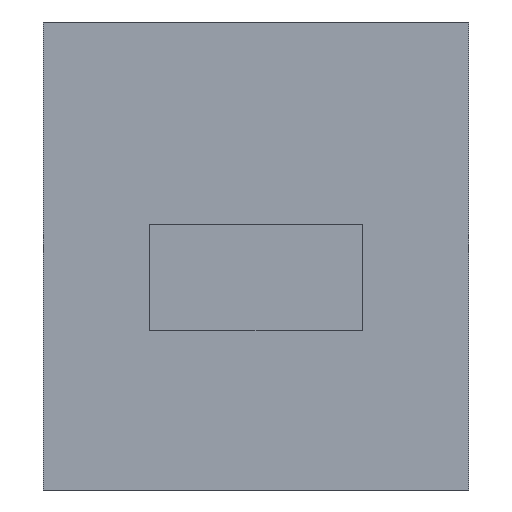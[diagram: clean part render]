
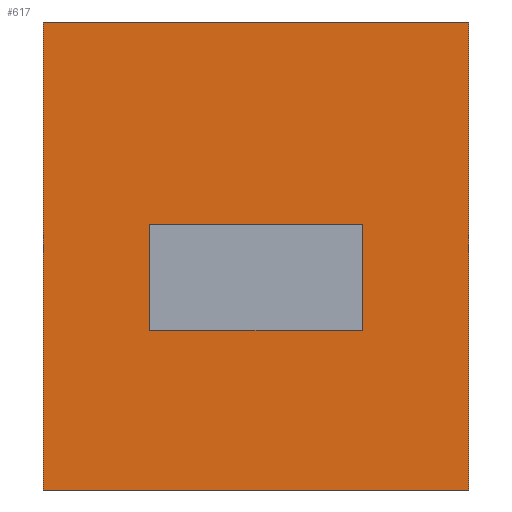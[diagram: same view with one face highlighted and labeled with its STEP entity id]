
A CAD part, front view. The second image highlights one B-rep face of the part: STEP entity #617.
In plain terms, the highlighted planar face has unit normal (0, -1, 0).
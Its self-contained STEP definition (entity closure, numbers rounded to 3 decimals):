
#92=ORIENTED_EDGE('',*,*,#246,.F.);
#93=ORIENTED_EDGE('',*,*,#247,.T.);
#94=ORIENTED_EDGE('',*,*,#241,.F.);
#95=ORIENTED_EDGE('',*,*,#248,.T.);
#96=ORIENTED_EDGE('',*,*,#225,.F.);
#97=ORIENTED_EDGE('',*,*,#232,.F.);
#98=ORIENTED_EDGE('',*,*,#222,.F.);
#99=ORIENTED_EDGE('',*,*,#237,.F.);
#222=EDGE_CURVE('',#300,#301,#362,.T.);
#225=EDGE_CURVE('',#302,#303,#365,.T.);
#232=EDGE_CURVE('',#301,#302,#372,.T.);
#237=EDGE_CURVE('',#303,#300,#377,.T.);
#241=EDGE_CURVE('',#315,#312,#381,.T.);
#246=EDGE_CURVE('',#320,#321,#386,.T.);
#247=EDGE_CURVE('',#320,#312,#387,.T.);
#248=EDGE_CURVE('',#315,#321,#388,.T.);
#300=VERTEX_POINT('',#904);
#301=VERTEX_POINT('',#905);
#302=VERTEX_POINT('',#910);
#303=VERTEX_POINT('',#911);
#312=VERTEX_POINT('',#936);
#315=VERTEX_POINT('',#941);
#320=VERTEX_POINT('',#953);
#321=VERTEX_POINT('',#954);
#362=LINE('',#903,#446);
#365=LINE('',#909,#449);
#372=LINE('',#923,#456);
#377=LINE('',#933,#461);
#381=LINE('',#942,#465);
#386=LINE('',#952,#470);
#387=LINE('',#955,#471);
#388=LINE('',#956,#472);
#446=VECTOR('',#735,1000.);
#449=VECTOR('',#740,1000.);
#456=VECTOR('',#749,1000.);
#461=VECTOR('',#756,1000.);
#465=VECTOR('',#762,1000.);
#470=VECTOR('',#769,1000.);
#471=VECTOR('',#770,1000.);
#472=VECTOR('',#771,1000.);
#512=EDGE_LOOP('',(#92,#93,#94,#95));
#513=EDGE_LOOP('',(#96,#97,#98,#99));
#550=FACE_BOUND('',#512,.T.);
#551=FACE_BOUND('',#513,.T.);
#585=PLANE('',#662);
#617=ADVANCED_FACE('',(#550,#551),#585,.T.);
#662=AXIS2_PLACEMENT_3D('',#951,#767,#768);
#735=DIRECTION('',(0.,0.,1.));
#740=DIRECTION('',(0.,0.,-1.));
#749=DIRECTION('',(-1.,0.,0.));
#756=DIRECTION('',(1.,0.,0.));
#762=DIRECTION('',(1.,0.,0.));
#767=DIRECTION('',(0.,-1.,0.));
#768=DIRECTION('',(1.,0.,0.));
#769=DIRECTION('',(-1.,0.,0.));
#770=DIRECTION('',(0.,0.,1.));
#771=DIRECTION('',(0.,0.,-1.));
#903=CARTESIAN_POINT('',(5.,-10.,-4.));
#904=CARTESIAN_POINT('',(5.,-10.,-4.));
#905=CARTESIAN_POINT('',(5.,-10.,1.));
#909=CARTESIAN_POINT('',(-5.,-10.,1.));
#910=CARTESIAN_POINT('',(-5.,-10.,1.));
#911=CARTESIAN_POINT('',(-5.,-10.,-4.));
#923=CARTESIAN_POINT('',(5.,-10.,1.));
#933=CARTESIAN_POINT('',(-5.,-10.,-4.));
#936=CARTESIAN_POINT('',(10.,-10.,10.5));
#941=CARTESIAN_POINT('',(-10.,-10.,10.5));
#942=CARTESIAN_POINT('',(10.,-10.,10.5));
#951=CARTESIAN_POINT('',(-10.,-10.,0.));
#952=CARTESIAN_POINT('',(10.,-10.,-11.5));
#953=CARTESIAN_POINT('',(10.,-10.,-11.5));
#954=CARTESIAN_POINT('',(-10.,-10.,-11.5));
#955=CARTESIAN_POINT('',(10.,-10.,0.));
#956=CARTESIAN_POINT('',(-10.,-10.,0.));
